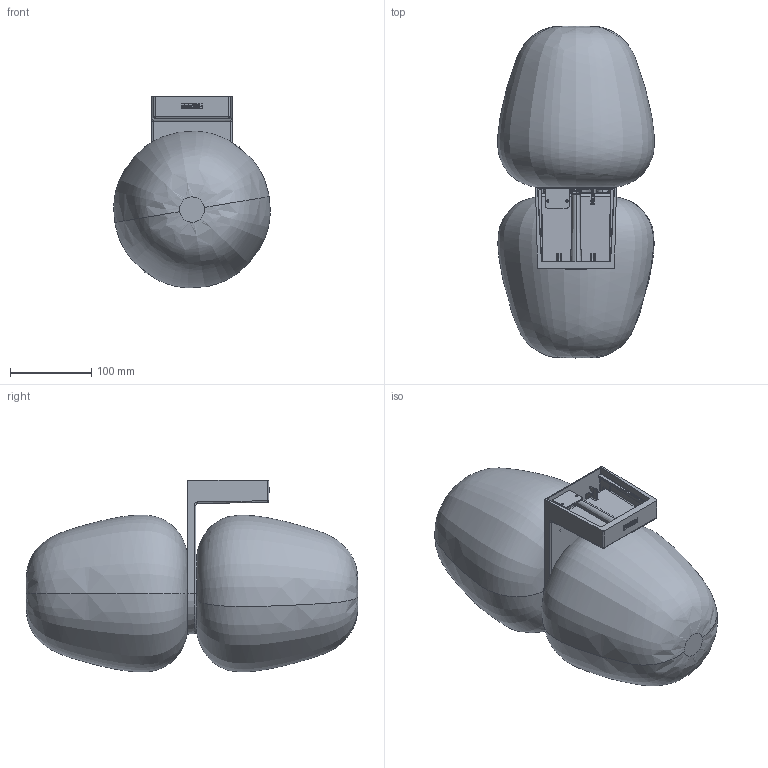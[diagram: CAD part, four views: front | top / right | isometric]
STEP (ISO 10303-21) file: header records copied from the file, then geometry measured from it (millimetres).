
FILE_DESCRIPTION (( 'STEP AP214' ), '1' );
FILE_NAME ('244_3-DOPPIA_W_PL_3D.STEP', '2021-05-04T09:04:40', ( '' ), ( '' ), 'SwSTEP 2.0', 'SolidWorks 2021', '' );
FILE_SCHEMA (( 'AUTOMOTIVE_DESIGN' ));
Length unit declared in the file: millimetre
Products named in the file (1): 244_3-DOPPIA_W_PL_3D
Bounding box: 193.3 x 409.7 x 236.71 mm (x, y, z)
Volume: 1351774.1 mm3; surface area: 616417.5 mm2
Topology: 6 solids, 6 shells, 1139 faces, 2746 edges, 1584 vertices
Faces by surface type: bspline 335, cylinder 275, plane 263, torus 150, cone 88, sphere 28
Entity records: 55516 total; most frequent: CARTESIAN_POINT 19063, ORIENTED_EDGE 5348, DIRECTION 4587, EDGE_CURVE 2674, AXIS2_PLACEMENT_3D 1819, VERTEX_POINT 1584, EDGE_LOOP 1210, UNCERTAINTY_MEASURE_WITH_UNIT 1147
